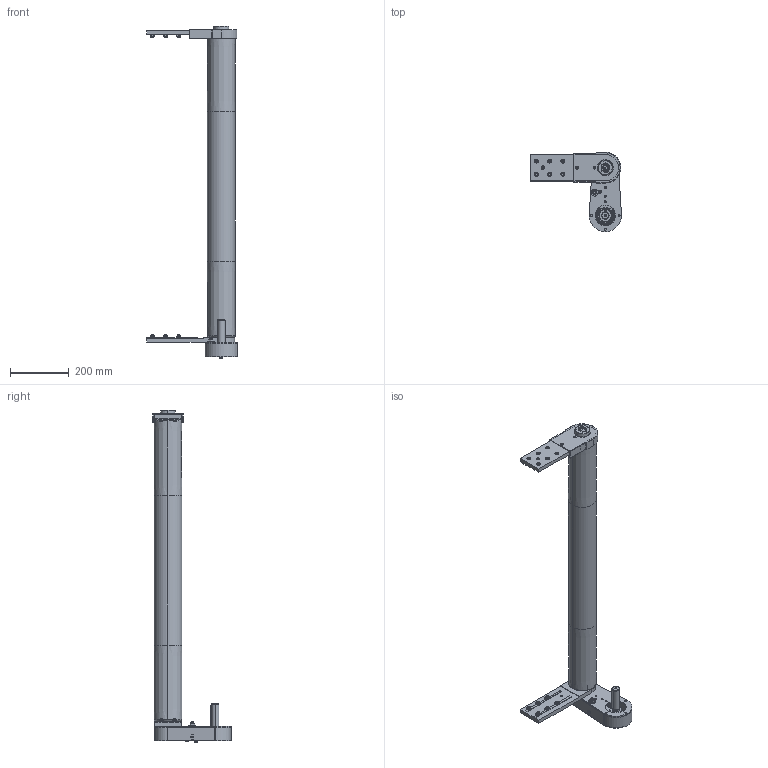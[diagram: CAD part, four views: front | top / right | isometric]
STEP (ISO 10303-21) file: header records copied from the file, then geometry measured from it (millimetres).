
FILE_DESCRIPTION (( 'STEP AP203' ), '1' );
FILE_NAME ('084.095.KTC.49.1000.STEP', '2019-07-30T07:40:15', ( '' ), ( '' ), 'SwSTEP 2.0', 'SolidWorks 2018', '' );
FILE_SCHEMA (( 'CONFIG_CONTROL_DESIGN' ));
Length unit declared in the file: millimetre
Products named in the file (27): 084.810.005; DADI ESAGONALI AUTOBLOCCANTI UNI 7473 INOX_M8 UNI 7473 INOX; 084.301.000 VITI ALUSIC_084.301.003; RONDELLE FASCIA LARGA UNI 6593_8.4x24 UNI 6593; 084.813.002; 084.816.116_084.816.107<A macchina>; 084.803.014; 084.810.010; CUSCINETTI A SFERE_608-2RS; 084.095.KTC.49.1000; 084.808.003_084.808.003; Circlip DIN 471 - 8 x 0.8_Circlip DIN 471 - 8 x 0.8; 084.809.003; 084.803.012; 084.302.000 DADI ALUSIC 13x13_084.302.004; 084.802.034_084.802.034; 084.803.005-1; 084.812.003; 084.810.003; CHIAVETTE_A 8x7x70 UNI 6604-69; 084.810.004; VITI TE UNI 5739_M6x50 UNI 5739; 084.813.005; 084.802.019_084.802.019; 084.809.002; VITI TSEI UNI 5933_M4x12 UNI 5933; 084.808.002_084.808.002
Assembly tree (53 placements, depth 3):
  084.095.KTC.49.1000
    084.816.116_084.816.107<A macchina>
    084.812.003
    084.813.002
    084.810.003  x2
    084.802.034_084.802.034
    084.802.019_084.802.019
    084.808.003_084.808.003
    084.808.002_084.808.002
    084.809.002
    084.803.014  x2
    084.803.012
    084.810.005
      084.810.010
      084.810.004
      CUSCINETTI A SFERE_608-2RS  x2
      Circlip DIN 471 - 8 x 0.8_Circlip DIN 471 - 8 x 0.8
      RONDELLE FASCIA LARGA UNI 6593_8.4x24 UNI 6593
      DADI ESAGONALI AUTOBLOCCANTI UNI 7473 INOX_M8 UNI 7473 INOX
    084.809.003
    084.813.005
    084.803.005-1
    CHIAVETTE_A 8x7x70 UNI 6604-69
    084.301.000 VITI ALUSIC_084.301.003  x12
    084.302.000 DADI ALUSIC 13x13_084.302.004  x12
    VITI TSEI UNI 5933_M4x12 UNI 5933  x2
    VITI TE UNI 5739_M6x50 UNI 5739  x2
Bounding box: 310 x 269 x 1131.5 mm (x, y, z)
Volume: 3107185.8 mm3; surface area: 1522742.5 mm2
Topology: 82 solids, 83 shells, 3503 faces, 8402 edges, 5393 vertices
Faces by surface type: cylinder 1499, plane 1147, bspline 516, cone 218, torus 114, sphere 9
Entity records: 94289 total; most frequent: CARTESIAN_POINT 21258, DIRECTION 15410, ORIENTED_EDGE 13934, EDGE_CURVE 6967, AXIS2_PLACEMENT_3D 6248, VERTEX_POINT 4464, CIRCLE 3784, EDGE_LOOP 3511
